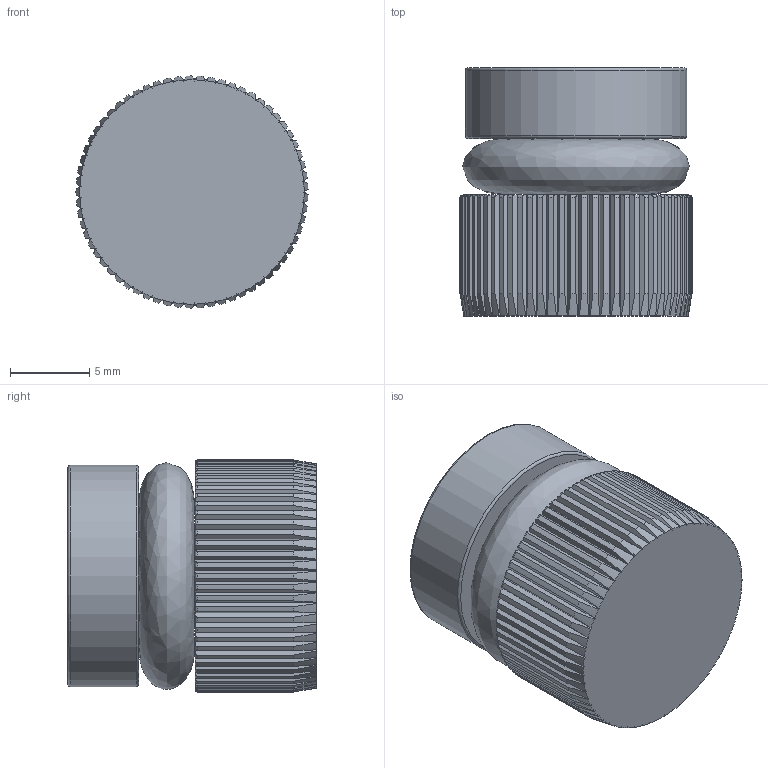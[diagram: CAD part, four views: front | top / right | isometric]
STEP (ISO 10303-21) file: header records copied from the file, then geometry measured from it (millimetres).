
FILE_DESCRIPTION(/* description */ (''),/* implementation_level */ '2;1');
FILE_NAME(/* name */ 'C:/Users/drich/Desktop/BTP-40 v1.step',/* time_stamp */ '2020-01-08T16:05:42-06:00',/* author */ (''),/* organization */ (''),/* preprocessor_version */ 'ST-DEVELOPER v18',/* originating_system */ 'Autodesk Translation Framework v8.12.0.6',/* authorisation */ '');
FILE_SCHEMA (('AUTOMOTIVE_DESIGN { 1 0 10303 214 3 1 1 }'));
Length unit declared in the file: inch
Products named in the file (1): BTP-40
Bounding box: 14.6 x 15.62 x 14.61 mm (x, y, z)
Volume: 2348 mm3; surface area: 1949.7 mm2
Topology: 3 solids, 3 shells, 346 faces, 1025 edges, 685 vertices
Faces by surface type: plane 142, torus 69, cone 67, cylinder 67, bspline 1
Full cylindrical faces by diameter (mm): 4.572 x1, 13.919 x1
Entity records: 12505 total; most frequent: CARTESIAN_POINT 3565, ORIENTED_EDGE 2046, DIRECTION 1741, EDGE_CURVE 1023, VERTEX_POINT 685, AXIS2_PLACEMENT_3D 632, LINE 477, VECTOR 477
